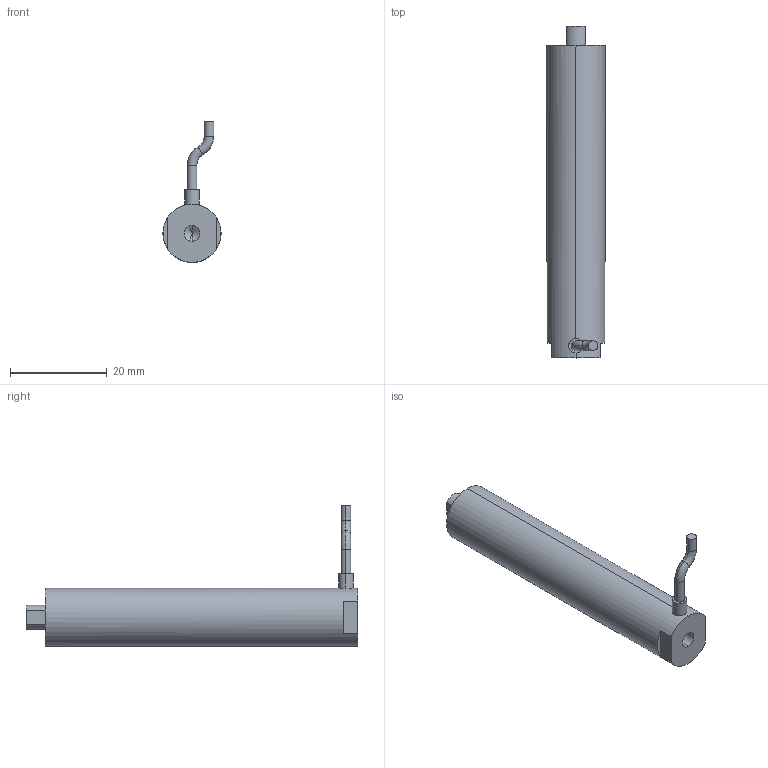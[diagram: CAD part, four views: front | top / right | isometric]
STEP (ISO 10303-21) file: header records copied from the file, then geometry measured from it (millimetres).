
FILE_DESCRIPTION (( 'STEP AP203' ), '1' );
FILE_NAME ('囀蹟恇宒60VS12.STEP', '2020-08-19T06:10:58', ( 'User' ), ( 'china' ), 'SwSTEP 2.0', 'SolidWorks 2016', '' );
FILE_SCHEMA (( 'CONFIG_CONTROL_DESIGN' ));
Length unit declared in the file: millimetre
Products named in the file (1): 囀蹟恇宒60VS12
Bounding box: 12 x 68.5 x 29.08 mm (x, y, z)
Volume: 7324.8 mm3; surface area: 2954.8 mm2
Topology: 1 solids, 1 shells, 932 faces, 2511 edges, 1668 vertices
Faces by surface type: bspline 513, plane 307, cylinder 104, torus 4, cone 4
Entity records: 44373 total; most frequent: CARTESIAN_POINT 25518, ORIENTED_EDGE 5014, EDGE_CURVE 2507, DIRECTION 1929, B_SPLINE_CURVE_WITH_KNOTS 1688, VERTEX_POINT 1668, EDGE_LOOP 1023, ADVANCED_FACE 932
